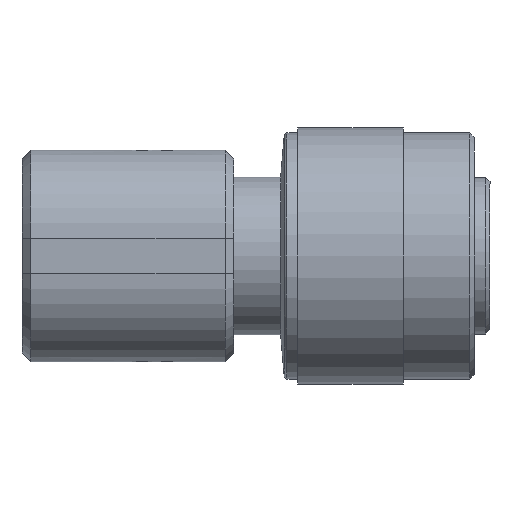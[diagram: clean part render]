
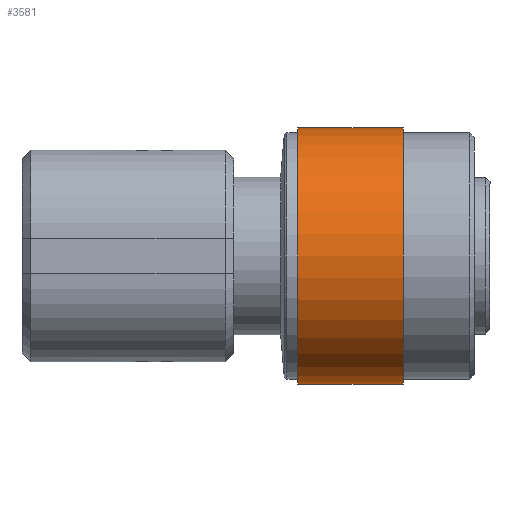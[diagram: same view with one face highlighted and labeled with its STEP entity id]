
A CAD part, front view. The second image highlights one B-rep face of the part: STEP entity #3581.
In plain terms, the highlighted cylindrical face has radius 7.25 mm (diameter 14.5 mm), a partial arc.
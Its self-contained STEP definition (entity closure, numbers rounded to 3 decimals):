
#152 = DIRECTION ( 'NONE',  ( 1., 0., 0. ) ) ;
#164 = CARTESIAN_POINT ( 'NONE',  ( 12.6, 0., 0. ) ) ;
#188 = VECTOR ( 'NONE', #152, 1000. ) ;
#224 = DIRECTION ( 'NONE',  ( 1., 0., 0. ) ) ;
#414 = CARTESIAN_POINT ( 'NONE',  ( 15.6, 0., -7.25 ) ) ;
#486 = EDGE_CURVE ( 'NONE', #1671, #6393, #4176, .T. ) ;
#501 = LINE ( 'NONE', #5631, #3905 ) ;
#629 = CARTESIAN_POINT ( 'NONE',  ( 12.6, 0., -7.25 ) ) ;
#966 = EDGE_CURVE ( 'NONE', #3053, #1438, #501, .T. ) ;
#980 = CARTESIAN_POINT ( 'NONE',  ( 9.6, 0., 7.25 ) ) ;
#1438 = VERTEX_POINT ( 'NONE', #6054 ) ;
#1635 = ORIENTED_EDGE ( 'NONE', *, *, #486, .T. ) ;
#1671 = VERTEX_POINT ( 'NONE', #3230 ) ;
#1692 = FACE_OUTER_BOUND ( 'NONE', #3797, .T. ) ;
#2440 = DIRECTION ( 'NONE',  ( 0., 0., 1. ) ) ;
#2902 = DIRECTION ( 'NONE',  ( -1., 0., 0. ) ) ;
#2930 = AXIS2_PLACEMENT_3D ( 'NONE', #164, #224, #4821 ) ;
#3053 = VERTEX_POINT ( 'NONE', #980 ) ;
#3068 = DIRECTION ( 'NONE',  ( 1., 0., 0. ) ) ;
#3102 = ORIENTED_EDGE ( 'NONE', *, *, #4022, .F. ) ;
#3230 = CARTESIAN_POINT ( 'NONE',  ( 9.6, 0., -7.25 ) ) ;
#3472 = CARTESIAN_POINT ( 'NONE',  ( 15.6, 0., 0. ) ) ;
#3518 = ORIENTED_EDGE ( 'NONE', *, *, #966, .F. ) ;
#3581 = ADVANCED_FACE ( 'NONE', ( #1692 ), #4310, .T. ) ;
#3797 = EDGE_LOOP ( 'NONE', ( #3102, #1635, #5748, #3518 ) ) ;
#3905 = VECTOR ( 'NONE', #3068, 1000. ) ;
#3978 = CARTESIAN_POINT ( 'NONE',  ( 9.6, 0., 0. ) ) ;
#4011 = AXIS2_PLACEMENT_3D ( 'NONE', #3978, #6571, #2440 ) ;
#4022 = EDGE_CURVE ( 'NONE', #1671, #3053, #6492, .T. ) ;
#4176 = LINE ( 'NONE', #629, #188 ) ;
#4310 = CYLINDRICAL_SURFACE ( 'NONE', #2930, 7.25 ) ;
#4411 = EDGE_CURVE ( 'NONE', #6393, #1438, #6064, .T. ) ;
#4821 = DIRECTION ( 'NONE',  ( 0., 0., 1. ) ) ;
#5631 = CARTESIAN_POINT ( 'NONE',  ( 12.6, 0., 7.25 ) ) ;
#5748 = ORIENTED_EDGE ( 'NONE', *, *, #4411, .T. ) ;
#5751 = AXIS2_PLACEMENT_3D ( 'NONE', #3472, #2902, #6564 ) ;
#6054 = CARTESIAN_POINT ( 'NONE',  ( 15.6, 0., 7.25 ) ) ;
#6064 = CIRCLE ( 'NONE', #5751, 7.25 ) ;
#6393 = VERTEX_POINT ( 'NONE', #414 ) ;
#6492 = CIRCLE ( 'NONE', #4011, 7.25 ) ;
#6564 = DIRECTION ( 'NONE',  ( 0., 0., 1. ) ) ;
#6571 = DIRECTION ( 'NONE',  ( -1., 0., 0. ) ) ;
